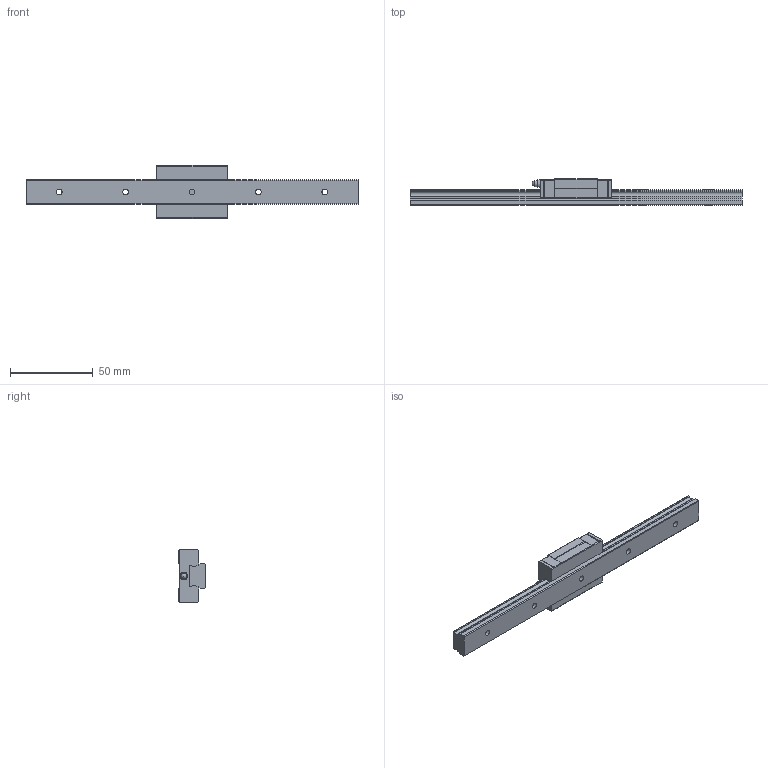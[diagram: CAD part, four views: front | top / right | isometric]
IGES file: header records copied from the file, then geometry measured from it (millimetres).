
Start section: Data from Parasolid IGES Translator 26.0.171, Copyright(c) 2006 Siemens PLM Software. All Rights Reserved.
Global section: file name: RSX15MUU-200LM_G20_0_PB107_78-5_0_0_0_1.igs; native system: By Siemens PLM Incorporated; preprocessor: XPlus GENERIC/IGES 26.0.171; author: Noname; organization: Noname; date: 20240521.102548; units: millimetre
Bounding box: 200 x 16 x 32 mm (x, y, z)
Surface area: 15668.5 mm2 (no closed solid volume)
Topology: 0 solids, 0 shells, 144 faces, 775 edges, 741 vertices
Faces by surface type: extrusion 96, revolution 48
